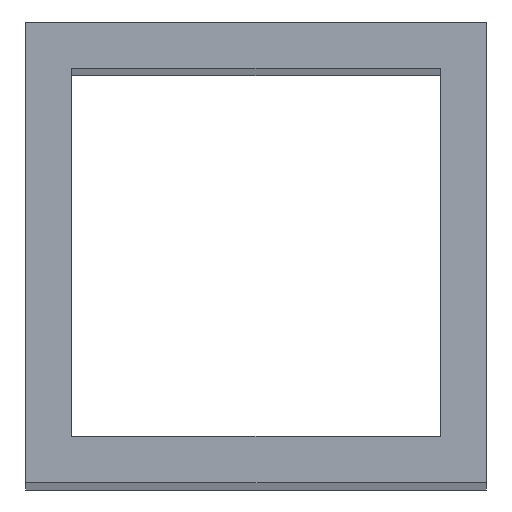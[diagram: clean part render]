
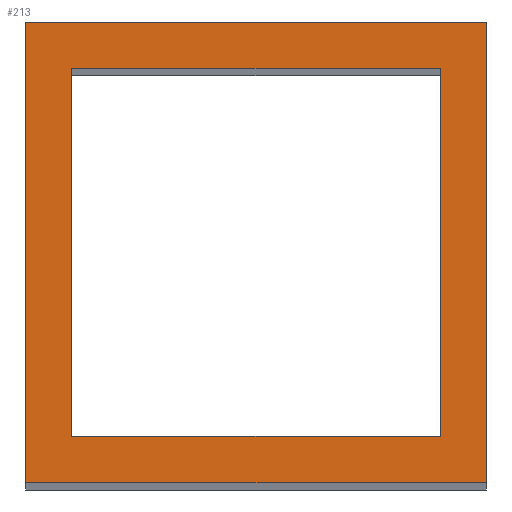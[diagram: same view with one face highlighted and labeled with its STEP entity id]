
A CAD part, top view. The second image highlights one B-rep face of the part: STEP entity #213.
In plain terms, the highlighted planar face has unit normal (0, 0, 1).
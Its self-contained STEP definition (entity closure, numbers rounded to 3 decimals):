
#24 = VERTEX_POINT('',#25);
#25 = CARTESIAN_POINT('',(149.,245.,283.));
#32 = PLANE('',#33);
#33 = AXIS2_PLACEMENT_3D('',#34,#35,#36);
#34 = CARTESIAN_POINT('',(149.,245.,4.));
#35 = DIRECTION('',(1.,0.,-0.));
#36 = DIRECTION('',(0.,0.,1.));
#44 = PLANE('',#45);
#45 = AXIS2_PLACEMENT_3D('',#46,#47,#48);
#46 = CARTESIAN_POINT('',(149.,245.,4.));
#47 = DIRECTION('',(-0.,1.,0.));
#48 = DIRECTION('',(0.,0.,1.));
#85 = VERTEX_POINT('',#86);
#86 = CARTESIAN_POINT('',(149.,275.,283.));
#100 = PLANE('',#101);
#101 = AXIS2_PLACEMENT_3D('',#102,#103,#104);
#102 = CARTESIAN_POINT('',(149.,275.,4.));
#103 = DIRECTION('',(-0.,1.,0.));
#104 = DIRECTION('',(0.,0.,1.));
#112 = EDGE_CURVE('',#24,#85,#113,.T.);
#113 = SURFACE_CURVE('',#114,(#118,#125),.PCURVE_S1.);
#114 = LINE('',#115,#116);
#115 = CARTESIAN_POINT('',(149.,245.,283.));
#116 = VECTOR('',#117,1.);
#117 = DIRECTION('',(-0.,1.,0.));
#118 = PCURVE('',#32,#119);
#119 = DEFINITIONAL_REPRESENTATION('',(#120),#124);
#120 = LINE('',#121,#122);
#121 = CARTESIAN_POINT('',(279.,0.));
#122 = VECTOR('',#123,1.);
#123 = DIRECTION('',(0.,-1.));
#124 = ( GEOMETRIC_REPRESENTATION_CONTEXT(2) 
PARAMETRIC_REPRESENTATION_CONTEXT() REPRESENTATION_CONTEXT('2D SPACE',''
  ) );
#125 = PCURVE('',#126,#131);
#126 = PLANE('',#127);
#127 = AXIS2_PLACEMENT_3D('',#128,#129,#130);
#128 = CARTESIAN_POINT('',(149.,245.,283.));
#129 = DIRECTION('',(0.,0.,1.));
#130 = DIRECTION('',(1.,0.,-0.));
#131 = DEFINITIONAL_REPRESENTATION('',(#132),#136);
#132 = LINE('',#133,#134);
#133 = CARTESIAN_POINT('',(0.,0.));
#134 = VECTOR('',#135,1.);
#135 = DIRECTION('',(0.,1.));
#136 = ( GEOMETRIC_REPRESENTATION_CONTEXT(2) 
PARAMETRIC_REPRESENTATION_CONTEXT() REPRESENTATION_CONTEXT('2D SPACE',''
  ) );
#165 = EDGE_CURVE('',#24,#166,#168,.T.);
#166 = VERTEX_POINT('',#167);
#167 = CARTESIAN_POINT('',(179.,245.,283.));
#168 = SURFACE_CURVE('',#169,(#173,#180),.PCURVE_S1.);
#169 = LINE('',#170,#171);
#170 = CARTESIAN_POINT('',(149.,245.,283.));
#171 = VECTOR('',#172,1.);
#172 = DIRECTION('',(1.,0.,-0.));
#173 = PCURVE('',#44,#174);
#174 = DEFINITIONAL_REPRESENTATION('',(#175),#179);
#175 = LINE('',#176,#177);
#176 = CARTESIAN_POINT('',(279.,0.));
#177 = VECTOR('',#178,1.);
#178 = DIRECTION('',(0.,1.));
#179 = ( GEOMETRIC_REPRESENTATION_CONTEXT(2) 
PARAMETRIC_REPRESENTATION_CONTEXT() REPRESENTATION_CONTEXT('2D SPACE',''
  ) );
#180 = PCURVE('',#126,#181);
#181 = DEFINITIONAL_REPRESENTATION('',(#182),#186);
#182 = LINE('',#183,#184);
#183 = CARTESIAN_POINT('',(0.,0.));
#184 = VECTOR('',#185,1.);
#185 = DIRECTION('',(1.,0.));
#186 = ( GEOMETRIC_REPRESENTATION_CONTEXT(2) 
PARAMETRIC_REPRESENTATION_CONTEXT() REPRESENTATION_CONTEXT('2D SPACE',''
  ) );
#202 = PLANE('',#203);
#203 = AXIS2_PLACEMENT_3D('',#204,#205,#206);
#204 = CARTESIAN_POINT('',(179.,245.,4.));
#205 = DIRECTION('',(1.,0.,-0.));
#206 = DIRECTION('',(0.,0.,1.));
#213 = ADVANCED_FACE('',(#214,#262),#126,.T.);
#214 = FACE_BOUND('',#215,.T.);
#215 = EDGE_LOOP('',(#216,#217,#218,#241));
#216 = ORIENTED_EDGE('',*,*,#112,.F.);
#217 = ORIENTED_EDGE('',*,*,#165,.T.);
#218 = ORIENTED_EDGE('',*,*,#219,.T.);
#219 = EDGE_CURVE('',#166,#220,#222,.T.);
#220 = VERTEX_POINT('',#221);
#221 = CARTESIAN_POINT('',(179.,275.,283.));
#222 = SURFACE_CURVE('',#223,(#227,#234),.PCURVE_S1.);
#223 = LINE('',#224,#225);
#224 = CARTESIAN_POINT('',(179.,245.,283.));
#225 = VECTOR('',#226,1.);
#226 = DIRECTION('',(-0.,1.,0.));
#227 = PCURVE('',#126,#228);
#228 = DEFINITIONAL_REPRESENTATION('',(#229),#233);
#229 = LINE('',#230,#231);
#230 = CARTESIAN_POINT('',(30.,0.));
#231 = VECTOR('',#232,1.);
#232 = DIRECTION('',(0.,1.));
#233 = ( GEOMETRIC_REPRESENTATION_CONTEXT(2) 
PARAMETRIC_REPRESENTATION_CONTEXT() REPRESENTATION_CONTEXT('2D SPACE',''
  ) );
#234 = PCURVE('',#202,#235);
#235 = DEFINITIONAL_REPRESENTATION('',(#236),#240);
#236 = LINE('',#237,#238);
#237 = CARTESIAN_POINT('',(279.,0.));
#238 = VECTOR('',#239,1.);
#239 = DIRECTION('',(0.,-1.));
#240 = ( GEOMETRIC_REPRESENTATION_CONTEXT(2) 
PARAMETRIC_REPRESENTATION_CONTEXT() REPRESENTATION_CONTEXT('2D SPACE',''
  ) );
#241 = ORIENTED_EDGE('',*,*,#242,.F.);
#242 = EDGE_CURVE('',#85,#220,#243,.T.);
#243 = SURFACE_CURVE('',#244,(#248,#255),.PCURVE_S1.);
#244 = LINE('',#245,#246);
#245 = CARTESIAN_POINT('',(149.,275.,283.));
#246 = VECTOR('',#247,1.);
#247 = DIRECTION('',(1.,0.,-0.));
#248 = PCURVE('',#126,#249);
#249 = DEFINITIONAL_REPRESENTATION('',(#250),#254);
#250 = LINE('',#251,#252);
#251 = CARTESIAN_POINT('',(0.,30.));
#252 = VECTOR('',#253,1.);
#253 = DIRECTION('',(1.,0.));
#254 = ( GEOMETRIC_REPRESENTATION_CONTEXT(2) 
PARAMETRIC_REPRESENTATION_CONTEXT() REPRESENTATION_CONTEXT('2D SPACE',''
  ) );
#255 = PCURVE('',#100,#256);
#256 = DEFINITIONAL_REPRESENTATION('',(#257),#261);
#257 = LINE('',#258,#259);
#258 = CARTESIAN_POINT('',(279.,0.));
#259 = VECTOR('',#260,1.);
#260 = DIRECTION('',(0.,1.));
#261 = ( GEOMETRIC_REPRESENTATION_CONTEXT(2) 
PARAMETRIC_REPRESENTATION_CONTEXT() REPRESENTATION_CONTEXT('2D SPACE',''
  ) );
#262 = FACE_BOUND('',#263,.T.);
#263 = EDGE_LOOP('',(#264,#292,#318,#344));
#264 = ORIENTED_EDGE('',*,*,#265,.T.);
#265 = EDGE_CURVE('',#266,#268,#270,.T.);
#266 = VERTEX_POINT('',#267);
#267 = CARTESIAN_POINT('',(176.,248.,283.));
#268 = VERTEX_POINT('',#269);
#269 = CARTESIAN_POINT('',(152.,248.,283.));
#270 = SURFACE_CURVE('',#271,(#275,#281),.PCURVE_S1.);
#271 = LINE('',#272,#273);
#272 = CARTESIAN_POINT('',(150.5,248.,283.));
#273 = VECTOR('',#274,1.);
#274 = DIRECTION('',(-1.,-0.,0.));
#275 = PCURVE('',#126,#276);
#276 = DEFINITIONAL_REPRESENTATION('',(#277),#280);
#277 = B_SPLINE_CURVE_WITH_KNOTS('',1,(#278,#279),.UNSPECIFIED.,.F.,.F.,
  (2,2),(-25.5,-1.5),.PIECEWISE_BEZIER_KNOTS.);
#278 = CARTESIAN_POINT('',(27.,3.));
#279 = CARTESIAN_POINT('',(3.,3.));
#280 = ( GEOMETRIC_REPRESENTATION_CONTEXT(2) 
PARAMETRIC_REPRESENTATION_CONTEXT() REPRESENTATION_CONTEXT('2D SPACE',''
  ) );
#281 = PCURVE('',#282,#287);
#282 = PLANE('',#283);
#283 = AXIS2_PLACEMENT_3D('',#284,#285,#286);
#284 = CARTESIAN_POINT('',(152.,248.,3.));
#285 = DIRECTION('',(-0.,1.,0.));
#286 = DIRECTION('',(0.,0.,1.));
#287 = DEFINITIONAL_REPRESENTATION('',(#288),#291);
#288 = B_SPLINE_CURVE_WITH_KNOTS('',1,(#289,#290),.UNSPECIFIED.,.F.,.F.,
  (2,2),(-25.5,-1.5),.PIECEWISE_BEZIER_KNOTS.);
#289 = CARTESIAN_POINT('',(280.,24.));
#290 = CARTESIAN_POINT('',(280.,0.));
#291 = ( GEOMETRIC_REPRESENTATION_CONTEXT(2) 
PARAMETRIC_REPRESENTATION_CONTEXT() REPRESENTATION_CONTEXT('2D SPACE',''
  ) );
#292 = ORIENTED_EDGE('',*,*,#293,.T.);
#293 = EDGE_CURVE('',#268,#294,#296,.T.);
#294 = VERTEX_POINT('',#295);
#295 = CARTESIAN_POINT('',(152.,272.,283.));
#296 = SURFACE_CURVE('',#297,(#301,#307),.PCURVE_S1.);
#297 = LINE('',#298,#299);
#298 = CARTESIAN_POINT('',(152.,246.5,283.));
#299 = VECTOR('',#300,1.);
#300 = DIRECTION('',(-0.,1.,0.));
#301 = PCURVE('',#126,#302);
#302 = DEFINITIONAL_REPRESENTATION('',(#303),#306);
#303 = B_SPLINE_CURVE_WITH_KNOTS('',1,(#304,#305),.UNSPECIFIED.,.F.,.F.,
  (2,2),(1.5,25.5),.PIECEWISE_BEZIER_KNOTS.);
#304 = CARTESIAN_POINT('',(3.,3.));
#305 = CARTESIAN_POINT('',(3.,27.));
#306 = ( GEOMETRIC_REPRESENTATION_CONTEXT(2) 
PARAMETRIC_REPRESENTATION_CONTEXT() REPRESENTATION_CONTEXT('2D SPACE',''
  ) );
#307 = PCURVE('',#308,#313);
#308 = PLANE('',#309);
#309 = AXIS2_PLACEMENT_3D('',#310,#311,#312);
#310 = CARTESIAN_POINT('',(152.,248.,3.));
#311 = DIRECTION('',(1.,0.,-0.));
#312 = DIRECTION('',(0.,0.,1.));
#313 = DEFINITIONAL_REPRESENTATION('',(#314),#317);
#314 = B_SPLINE_CURVE_WITH_KNOTS('',1,(#315,#316),.UNSPECIFIED.,.F.,.F.,
  (2,2),(1.5,25.5),.PIECEWISE_BEZIER_KNOTS.);
#315 = CARTESIAN_POINT('',(280.,0.));
#316 = CARTESIAN_POINT('',(280.,-24.));
#317 = ( GEOMETRIC_REPRESENTATION_CONTEXT(2) 
PARAMETRIC_REPRESENTATION_CONTEXT() REPRESENTATION_CONTEXT('2D SPACE',''
  ) );
#318 = ORIENTED_EDGE('',*,*,#319,.F.);
#319 = EDGE_CURVE('',#320,#294,#322,.T.);
#320 = VERTEX_POINT('',#321);
#321 = CARTESIAN_POINT('',(176.,272.,283.));
#322 = SURFACE_CURVE('',#323,(#327,#333),.PCURVE_S1.);
#323 = LINE('',#324,#325);
#324 = CARTESIAN_POINT('',(150.5,272.,283.));
#325 = VECTOR('',#326,1.);
#326 = DIRECTION('',(-1.,-0.,0.));
#327 = PCURVE('',#126,#328);
#328 = DEFINITIONAL_REPRESENTATION('',(#329),#332);
#329 = B_SPLINE_CURVE_WITH_KNOTS('',1,(#330,#331),.UNSPECIFIED.,.F.,.F.,
  (2,2),(-25.5,-1.5),.PIECEWISE_BEZIER_KNOTS.);
#330 = CARTESIAN_POINT('',(27.,27.));
#331 = CARTESIAN_POINT('',(3.,27.));
#332 = ( GEOMETRIC_REPRESENTATION_CONTEXT(2) 
PARAMETRIC_REPRESENTATION_CONTEXT() REPRESENTATION_CONTEXT('2D SPACE',''
  ) );
#333 = PCURVE('',#334,#339);
#334 = PLANE('',#335);
#335 = AXIS2_PLACEMENT_3D('',#336,#337,#338);
#336 = CARTESIAN_POINT('',(152.,272.,3.));
#337 = DIRECTION('',(-0.,1.,0.));
#338 = DIRECTION('',(0.,0.,1.));
#339 = DEFINITIONAL_REPRESENTATION('',(#340),#343);
#340 = B_SPLINE_CURVE_WITH_KNOTS('',1,(#341,#342),.UNSPECIFIED.,.F.,.F.,
  (2,2),(-25.5,-1.5),.PIECEWISE_BEZIER_KNOTS.);
#341 = CARTESIAN_POINT('',(280.,24.));
#342 = CARTESIAN_POINT('',(280.,0.));
#343 = ( GEOMETRIC_REPRESENTATION_CONTEXT(2) 
PARAMETRIC_REPRESENTATION_CONTEXT() REPRESENTATION_CONTEXT('2D SPACE',''
  ) );
#344 = ORIENTED_EDGE('',*,*,#345,.F.);
#345 = EDGE_CURVE('',#266,#320,#346,.T.);
#346 = SURFACE_CURVE('',#347,(#351,#357),.PCURVE_S1.);
#347 = LINE('',#348,#349);
#348 = CARTESIAN_POINT('',(176.,246.5,283.));
#349 = VECTOR('',#350,1.);
#350 = DIRECTION('',(-0.,1.,0.));
#351 = PCURVE('',#126,#352);
#352 = DEFINITIONAL_REPRESENTATION('',(#353),#356);
#353 = B_SPLINE_CURVE_WITH_KNOTS('',1,(#354,#355),.UNSPECIFIED.,.F.,.F.,
  (2,2),(1.5,25.5),.PIECEWISE_BEZIER_KNOTS.);
#354 = CARTESIAN_POINT('',(27.,3.));
#355 = CARTESIAN_POINT('',(27.,27.));
#356 = ( GEOMETRIC_REPRESENTATION_CONTEXT(2) 
PARAMETRIC_REPRESENTATION_CONTEXT() REPRESENTATION_CONTEXT('2D SPACE',''
  ) );
#357 = PCURVE('',#358,#363);
#358 = PLANE('',#359);
#359 = AXIS2_PLACEMENT_3D('',#360,#361,#362);
#360 = CARTESIAN_POINT('',(176.,248.,3.));
#361 = DIRECTION('',(1.,0.,-0.));
#362 = DIRECTION('',(0.,0.,1.));
#363 = DEFINITIONAL_REPRESENTATION('',(#364),#367);
#364 = B_SPLINE_CURVE_WITH_KNOTS('',1,(#365,#366),.UNSPECIFIED.,.F.,.F.,
  (2,2),(1.5,25.5),.PIECEWISE_BEZIER_KNOTS.);
#365 = CARTESIAN_POINT('',(280.,0.));
#366 = CARTESIAN_POINT('',(280.,-24.));
#367 = ( GEOMETRIC_REPRESENTATION_CONTEXT(2) 
PARAMETRIC_REPRESENTATION_CONTEXT() REPRESENTATION_CONTEXT('2D SPACE',''
  ) );
